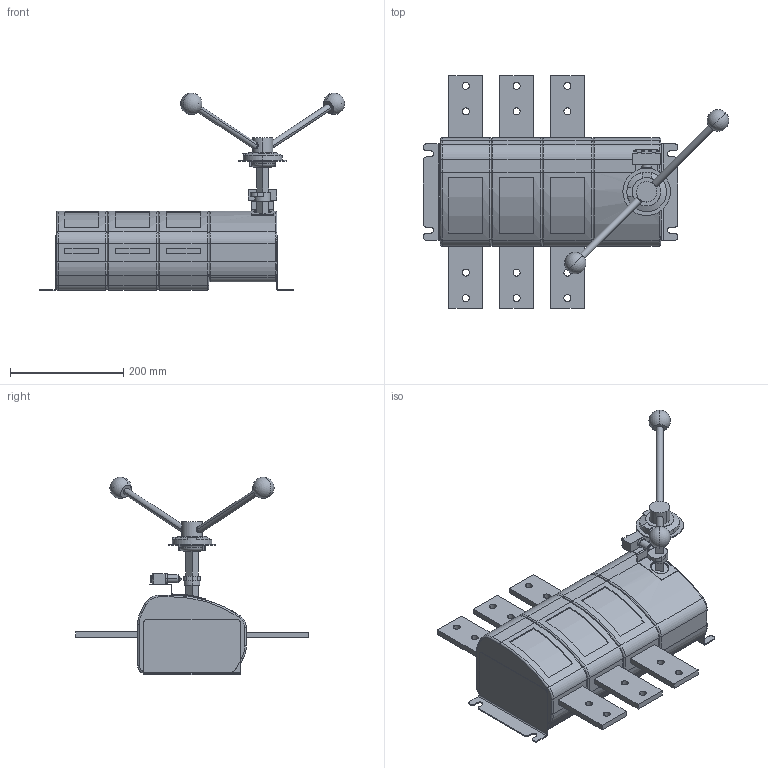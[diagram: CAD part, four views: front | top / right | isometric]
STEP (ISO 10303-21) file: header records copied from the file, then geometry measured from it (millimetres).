
FILE_DESCRIPTION (( 'STEP AP214' ), '1' );
FILE_NAME ('Âûêëþ÷àòåëü íàãðóçêè ÂÍÊ-43-31131-1600À-IP32-ÓÕË3-ÊÝÀÇ.STEP', '2023-04-19T13:50:32', ( '' ), ( '' ), 'SwSTEP 2.0', 'SolidWorks 2018', '' );
FILE_SCHEMA (( 'AUTOMOTIVE_DESIGN' ));
Length unit declared in the file: millimetre
Products named in the file (1): Âûêëþ÷àòåëü íàãðóçêè ÂÍÊ-43-31131-1600À-IP32-ÓÕË3-ÊÝÀÇ
Bounding box: 539.34 x 411.4 x 349.8 mm (x, y, z)
Volume: 9684233.7 mm3; surface area: 601063.9 mm2
Topology: 12 solids, 12 shells, 471 faces, 1140 edges, 719 vertices
Faces by surface type: plane 208, cylinder 193, torus 60, sphere 6, cone 4
Entity records: 19587 total; most frequent: CARTESIAN_POINT 2905, DIRECTION 2535, ORIENTED_EDGE 2252, EDGE_CURVE 1126, AXIS2_PLACEMENT_3D 961, VERTEX_POINT 711, VECTOR 613, LINE 613
